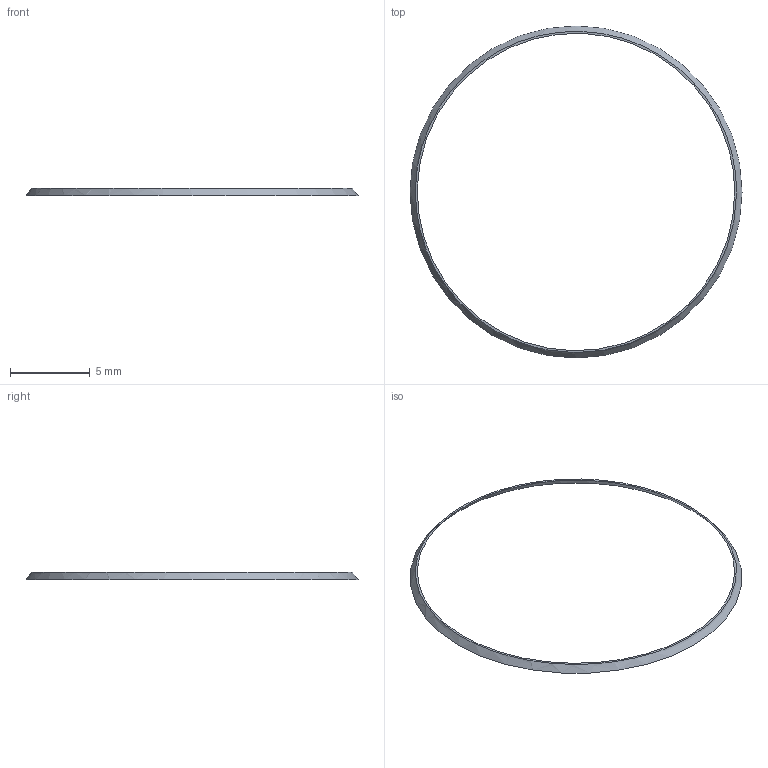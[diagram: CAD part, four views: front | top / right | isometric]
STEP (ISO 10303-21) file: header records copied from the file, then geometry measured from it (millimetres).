
FILE_DESCRIPTION(('FreeCAD Model'),'2;1');
FILE_NAME('Open CASCADE Shape Model','2026-10-23T21:15:57',('FreeCAD'),( 'FreeCAD'),'Open CASCADE STEP processor 7.8','FreeCAD','Unknown');
FILE_SCHEMA(('AUTOMOTIVE_DESIGN { 1 0 10303 214 1 1 1 1 }'));
Length unit declared in the file: millimetre
Products named in the file (1): Open CASCADE STEP translator 7.8 3
Bounding box: 20.84 x 20.84 x 0.45 mm (x, y, z)
Volume: 3.5 mm3; surface area: 87.6 mm2
Topology: 1 solids, 1 shells, 4 faces, 6 edges, 4 vertices
Faces by surface type: plane 2, revolution 2
Entity records: 445 total; most frequent: CARTESIAN_POINT 362, DIRECTION 12, ORIENTED_EDGE 12, FACE_BOUND 6, EDGE_LOOP 6, EDGE_CURVE 6, B_SPLINE_CURVE_WITH_KNOTS 6, AXIS2_PLACEMENT_3D 5
